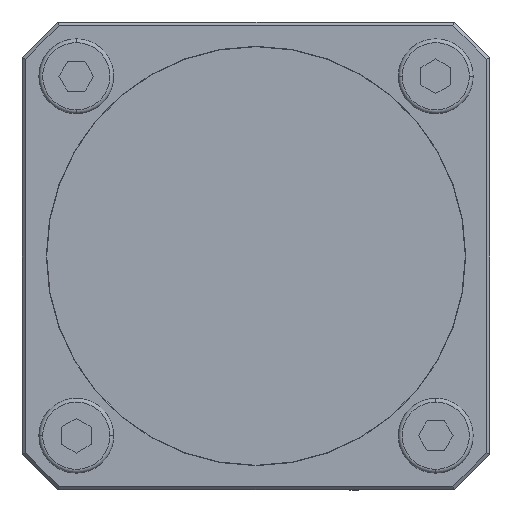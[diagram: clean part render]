
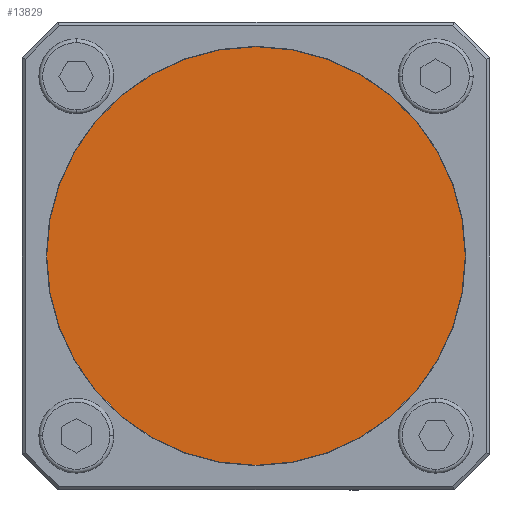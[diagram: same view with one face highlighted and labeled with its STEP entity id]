
A CAD part, front view. The second image highlights one B-rep face of the part: STEP entity #13829.
In plain terms, the highlighted planar face has unit normal (0, -1, 0).
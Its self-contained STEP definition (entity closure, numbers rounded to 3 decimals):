
#131 = DIRECTION ( 'NONE',  ( 0., 0., -1. ) ) ;
#1631 = PLANE ( 'NONE',  #9259 ) ;
#2197 = DIRECTION ( 'NONE',  ( 0., -1., 0. ) ) ;
#2376 = EDGE_CURVE ( 'NONE', #19021, #8978, #22000, .T. ) ;
#3313 = EDGE_CURVE ( 'NONE', #8978, #19021, #7600, .T. ) ;
#3881 = CARTESIAN_POINT ( 'NONE',  ( 0., 0.1, 55.9 ) ) ;
#3982 = DIRECTION ( 'NONE',  ( 0., -1., 0. ) ) ;
#4014 = DIRECTION ( 'NONE',  ( 0., -1., 0. ) ) ;
#7600 = CIRCLE ( 'NONE', #14652, 55.9 ) ;
#7764 = EDGE_LOOP ( 'NONE', ( #28258, #14969 ) ) ;
#8515 = CARTESIAN_POINT ( 'NONE',  ( 0., 0.1, 0. ) ) ;
#8788 = CARTESIAN_POINT ( 'NONE',  ( 0., 0.1, 0. ) ) ;
#8978 = VERTEX_POINT ( 'NONE', #20444 ) ;
#9259 = AXIS2_PLACEMENT_3D ( 'NONE', #8515, #4014, #14878 ) ;
#13829 = ADVANCED_FACE ( 'NONE', ( #26056 ), #1631, .T. ) ;
#14652 = AXIS2_PLACEMENT_3D ( 'NONE', #8788, #2197, #20202 ) ;
#14878 = DIRECTION ( 'NONE',  ( 0., 0., -1. ) ) ;
#14969 = ORIENTED_EDGE ( 'NONE', *, *, #2376, .T. ) ;
#17786 = CARTESIAN_POINT ( 'NONE',  ( 0., 0.1, 0. ) ) ;
#19021 = VERTEX_POINT ( 'NONE', #3881 ) ;
#20202 = DIRECTION ( 'NONE',  ( 0., 0., -1. ) ) ;
#20444 = CARTESIAN_POINT ( 'NONE',  ( 0., 0.1, -55.9 ) ) ;
#21027 = AXIS2_PLACEMENT_3D ( 'NONE', #17786, #3982, #131 ) ;
#22000 = CIRCLE ( 'NONE', #21027, 55.9 ) ;
#26056 = FACE_OUTER_BOUND ( 'NONE', #7764, .T. ) ;
#28258 = ORIENTED_EDGE ( 'NONE', *, *, #3313, .T. ) ;
